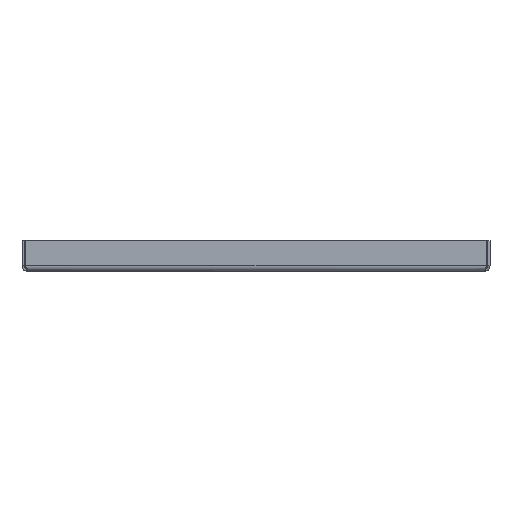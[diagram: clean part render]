
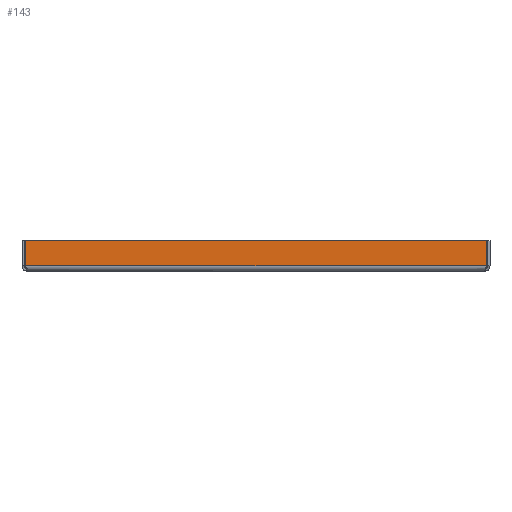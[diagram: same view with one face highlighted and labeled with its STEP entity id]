
A CAD part, front view. The second image highlights one B-rep face of the part: STEP entity #143.
In plain terms, the highlighted planar face has unit normal (0, -1, 0).
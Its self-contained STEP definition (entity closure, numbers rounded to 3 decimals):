
#143=ADVANCED_FACE('',(#2809),#2811,.F.);
#2809=FACE_BOUND('',#2810,.T.);
#2810=EDGE_LOOP('',(#9533,#9534,#9535,#9536));
#2811=PLANE('',#2812);
#2812=AXIS2_PLACEMENT_3D('',#2813,#2814,#2815);
#2813=CARTESIAN_POINT('',(0.,-348.5,0.));
#2814=DIRECTION('',(0.,1.,0.));
#2815=DIRECTION('',(0.,0.,1.));
#9533=ORIENTED_EDGE('',*,*,#13951,.F.);
#9534=ORIENTED_EDGE('',*,*,#13956,.T.);
#9535=ORIENTED_EDGE('',*,*,#13957,.F.);
#9536=ORIENTED_EDGE('',*,*,#13955,.F.);
#13951=EDGE_CURVE('',#17804,#17797,#17807,.T.);
#13955=EDGE_CURVE('',#17797,#17810,#17813,.T.);
#13956=EDGE_CURVE('',#17804,#17814,#17815,.T.);
#13957=EDGE_CURVE('',#17810,#17814,#17816,.T.);
#17797=VERTEX_POINT('',#25801);
#17804=VERTEX_POINT('',#26010);
#17807=LINE('',#26115,#26116);
#17810=VERTEX_POINT('',#26122);
#17813=LINE('',#26129,#26130);
#17814=VERTEX_POINT('',#26132);
#17815=LINE('',#26133,#26134);
#17816=LINE('',#26136,#26137);
#25801=CARTESIAN_POINT('',(-143.793,-348.5,1.8));
#26010=CARTESIAN_POINT('',(143.793,-348.5,1.8));
#26115=CARTESIAN_POINT('',(143.793,-348.5,1.8));
#26116=VECTOR('',#26117,1.);
#26117=DIRECTION('',(-1.,0.,0.));
#26122=CARTESIAN_POINT('',(-143.793,-348.5,17.5));
#26129=CARTESIAN_POINT('',(-143.793,-348.5,1.8));
#26130=VECTOR('',#26131,1.);
#26131=DIRECTION('',(0.,0.,1.));
#26132=CARTESIAN_POINT('',(143.793,-348.5,17.5));
#26133=CARTESIAN_POINT('',(143.793,-348.5,1.8));
#26134=VECTOR('',#26135,1.);
#26135=DIRECTION('',(0.,0.,1.));
#26136=CARTESIAN_POINT('',(-143.793,-348.5,17.5));
#26137=VECTOR('',#26138,1.);
#26138=DIRECTION('',(1.,0.,0.));
